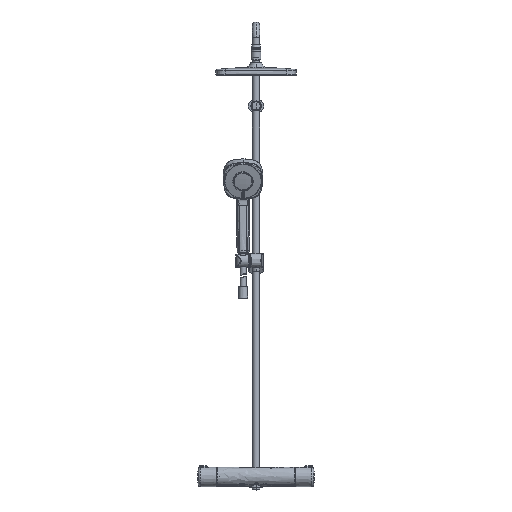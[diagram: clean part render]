
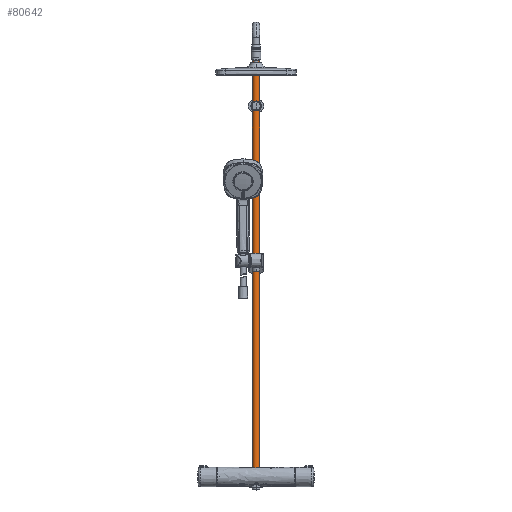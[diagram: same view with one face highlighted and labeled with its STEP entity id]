
A CAD part, top view. The second image highlights one B-rep face of the part: STEP entity #80642.
In plain terms, the highlighted cylindrical face has radius 8.9 mm (diameter 17.8 mm), a partial arc.
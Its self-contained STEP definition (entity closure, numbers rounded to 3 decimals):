
#2208 = CARTESIAN_POINT ( 'NONE',  ( 0., 1091.262, 0. ) ) ;
#2863 = ORIENTED_EDGE ( 'NONE', *, *, #34762, .T. ) ;
#3181 = CARTESIAN_POINT ( 'NONE',  ( 8.9, 21.262, 0. ) ) ;
#3753 = EDGE_CURVE ( 'NONE', #24408, #41094, #24264, .T. ) ;
#5021 = ORIENTED_EDGE ( 'NONE', *, *, #9088, .F. ) ;
#5321 = CARTESIAN_POINT ( 'NONE',  ( 0., 1091.262, 0. ) ) ;
#6337 = CARTESIAN_POINT ( 'NONE',  ( 0., 1091.262, 0. ) ) ;
#6799 = VERTEX_POINT ( 'NONE', #3181 ) ;
#8192 = CIRCLE ( 'NONE', #28894, 8.9 ) ;
#9088 = EDGE_CURVE ( 'NONE', #6799, #68261, #79791, .T. ) ;
#11528 = DIRECTION ( 'NONE',  ( 0., -1., 0. ) ) ;
#15638 = ORIENTED_EDGE ( 'NONE', *, *, #3753, .T. ) ;
#15769 = DIRECTION ( 'NONE',  ( -1., 0., 0. ) ) ;
#18003 = CARTESIAN_POINT ( 'NONE',  ( -8.9, 21.262, 0. ) ) ;
#21236 = CARTESIAN_POINT ( 'NONE',  ( 0., 21.262, 0. ) ) ;
#22124 = CARTESIAN_POINT ( 'NONE',  ( 8.9, 1091.262, 0. ) ) ;
#24264 = CIRCLE ( 'NONE', #48591, 8.9 ) ;
#24408 = VERTEX_POINT ( 'NONE', #74917 ) ;
#28223 = CARTESIAN_POINT ( 'NONE',  ( 8.9, 1091.262, 0. ) ) ;
#28894 = AXIS2_PLACEMENT_3D ( 'NONE', #5321, #11528, #63618 ) ;
#31764 = LINE ( 'NONE', #35629, #61150 ) ;
#32374 = DIRECTION ( 'NONE',  ( 1., 0., 0. ) ) ;
#32760 = VECTOR ( 'NONE', #60060, 1000. ) ;
#34762 = EDGE_CURVE ( 'NONE', #41094, #68261, #31764, .T. ) ;
#35398 = ORIENTED_EDGE ( 'NONE', *, *, #73195, .F. ) ;
#35629 = CARTESIAN_POINT ( 'NONE',  ( -8.9, 1091.262, 0. ) ) ;
#38024 = DIRECTION ( 'NONE',  ( 0., -1., 0. ) ) ;
#38635 = CARTESIAN_POINT ( 'NONE',  ( -8.9, 1091.262, 0. ) ) ;
#39098 = AXIS2_PLACEMENT_3D ( 'NONE', #2208, #68130, #15769 ) ;
#39581 = FACE_OUTER_BOUND ( 'NONE', #78551, .T. ) ;
#40734 = DIRECTION ( 'NONE',  ( 0., -1., 0. ) ) ;
#41094 = VERTEX_POINT ( 'NONE', #38635 ) ;
#43552 = EDGE_CURVE ( 'NONE', #81325, #24408, #8192, .T. ) ;
#48591 = AXIS2_PLACEMENT_3D ( 'NONE', #6337, #38024, #32374 ) ;
#49607 = ORIENTED_EDGE ( 'NONE', *, *, #43552, .T. ) ;
#60060 = DIRECTION ( 'NONE',  ( 0., -1., 0. ) ) ;
#61091 = LINE ( 'NONE', #22124, #32760 ) ;
#61150 = VECTOR ( 'NONE', #61682, 1000. ) ;
#61682 = DIRECTION ( 'NONE',  ( 0., -1., 0. ) ) ;
#63618 = DIRECTION ( 'NONE',  ( 1., 0., 0. ) ) ;
#68130 = DIRECTION ( 'NONE',  ( 0., -1., 0. ) ) ;
#68261 = VERTEX_POINT ( 'NONE', #18003 ) ;
#69008 = CYLINDRICAL_SURFACE ( 'NONE', #39098, 8.9 ) ;
#73195 = EDGE_CURVE ( 'NONE', #81325, #6799, #61091, .T. ) ;
#73311 = DIRECTION ( 'NONE',  ( 1., 0., 0. ) ) ;
#74917 = CARTESIAN_POINT ( 'NONE',  ( 0., 1091.262, 8.9 ) ) ;
#76889 = AXIS2_PLACEMENT_3D ( 'NONE', #21236, #40734, #73311 ) ;
#78551 = EDGE_LOOP ( 'NONE', ( #35398, #49607, #15638, #2863, #5021 ) ) ;
#79791 = CIRCLE ( 'NONE', #76889, 8.9 ) ;
#80642 = ADVANCED_FACE ( 'NONE', ( #39581 ), #69008, .T. ) ;
#81325 = VERTEX_POINT ( 'NONE', #28223 ) ;
